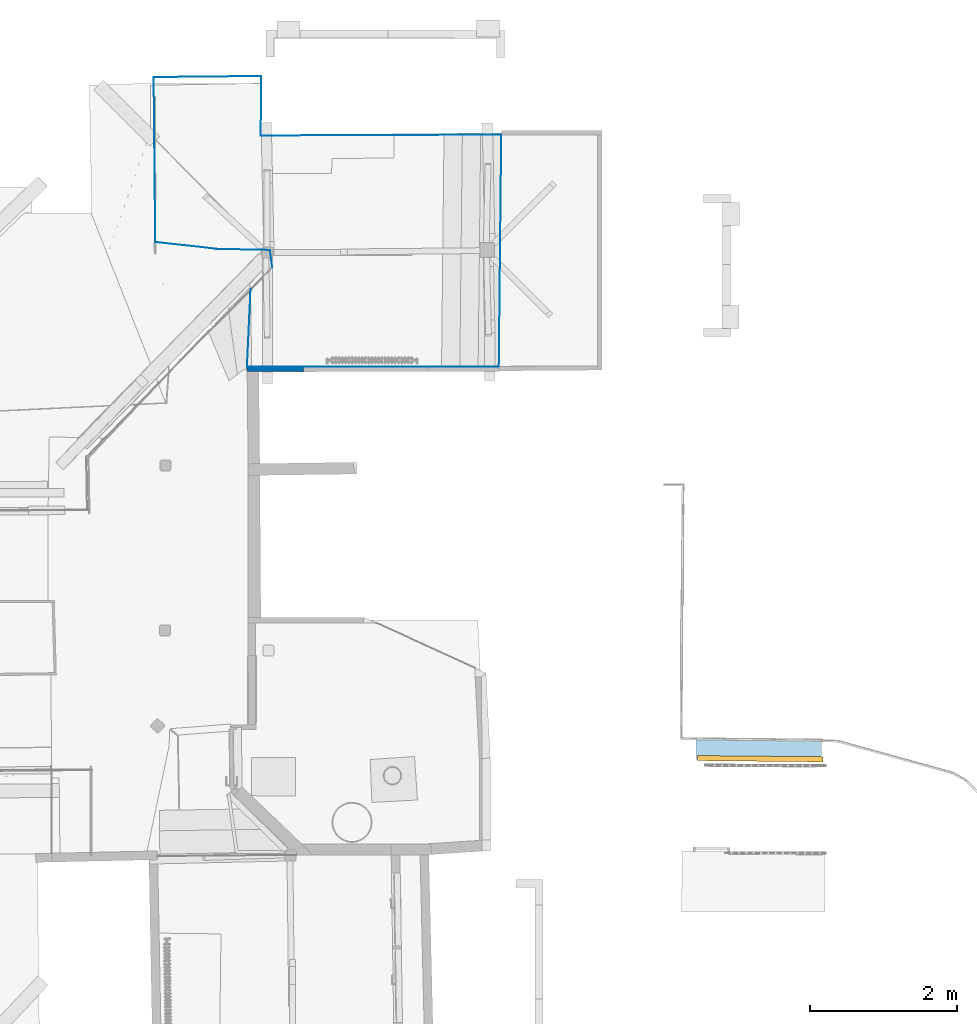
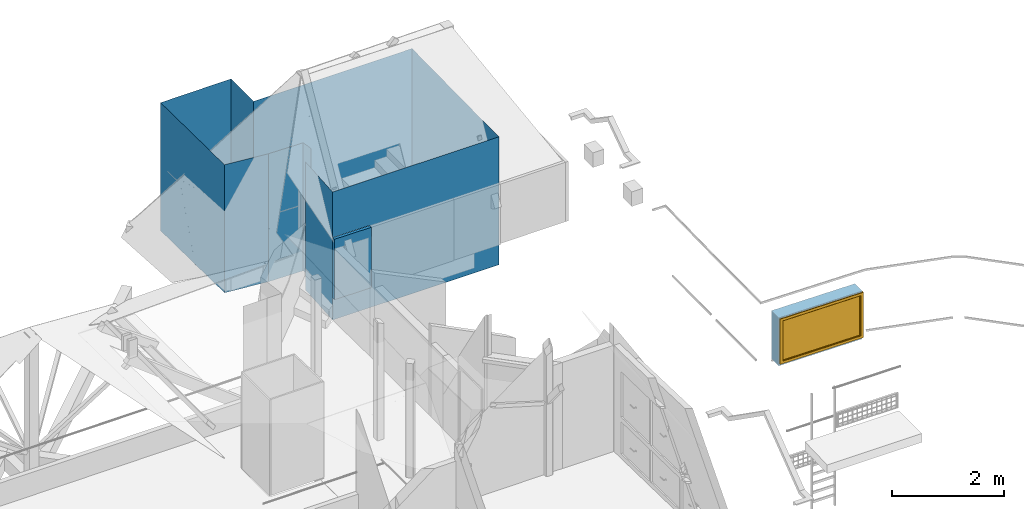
# One storey, part 23 of 39: 11 walls, 1 window, 1 opening, plus 1 element that does not belong to this part.
"""IFC2X3 building model written with IfcOpenShell, lengths in centimetres."""

import ifcopenshell
import ifcopenshell.guid

model = None  # the IFC model being written
_history = None  # IfcOwnerHistory: only IFC2X3 demands one
_inside = {}  # id of a spatial element -> (the spatial element, [elements in it])
_under = {}  # id of a project, library or spatial element -> (it, [spatial elements below it])
_declared = {}  # id of a project -> (the project, [libraries it declares])
_typed = {}  # id of a type object -> (the type object, [elements of that type])
_made_of = {}  # id of a material, layer set ... -> (it, [elements and type objects made of it])


def new_model(schema):
    """Start an empty IFC model of exactly this schema.

    Asked for "IFC4X3", IfcOpenShell would pick the latest addendum, in which some entities
    have other attributes; the version numbers below select the first issue.
    IFC2X3 requires an IfcOwnerHistory on every rooted entity: one is made here for all.
    """
    global model, _history
    if schema == "IFC4X3":
        model = ifcopenshell.file(schema_version=(4, 3, 0, 0))
    else:
        model = ifcopenshell.file(schema=schema)
    _inside.clear()
    _under.clear()
    _declared.clear()
    _typed.clear()
    _made_of.clear()
    _history = None
    if model.schema == "IFC2X3":
        org = make("IfcOrganization", Name="unknown")
        user = make(
            "IfcPersonAndOrganization",
            ThePerson=make("IfcPerson", FamilyName="unknown"),
            TheOrganization=org,
        )
        app = make(
            "IfcApplication",
            ApplicationDeveloper=org,
            Version="unknown",
            ApplicationFullName="unknown",
            ApplicationIdentifier="unknown",
        )
        _history = make(
            "IfcOwnerHistory",
            OwningUser=user,
            OwningApplication=app,
            ChangeAction="ADDED",
            CreationDate=0,
        )
    return model


def make(cls, **values):
    """One entity of the class cls with the attributes given. An attribute that is None is left unset."""
    return model.create_entity(
        cls, **{name: value for name, value in values.items() if value is not None}
    )


def entity(cls, *values):
    """Any entity or typed value of the class cls, its attributes in the order of the schema. None: left unset."""
    e = model.create_entity(cls)
    for i, value in enumerate(values):
        if value is not None:
            e[i] = value
    return e


def rooted(cls, **values):
    """An entity with a GlobalId (a new one), such as an element, a storey or a relation."""
    return make(cls, GlobalId=ifcopenshell.guid.new(), OwnerHistory=_history, **values)


def si_unit(unit_type, name, prefix=None):
    """IfcSIUnit, for example si_unit("LENGTHUNIT", "METRE", prefix="MILLI")."""
    return make("IfcSIUnit", UnitType=unit_type, Prefix=prefix, Name=name)


def converted_unit(unit_type, name, factor, base, dimensions=None, offset=None):
    """IfcConversionBasedUnit, such as the inch: factor (a typed value) times the base unit."""
    return make(
        "IfcConversionBasedUnit"
        if offset is None
        else "IfcConversionBasedUnitWithOffset",
        ConversionOffset=offset,
        Dimensions=None
        if dimensions is None
        else entity("IfcDimensionalExponents", *dimensions),
        UnitType=unit_type,
        Name=name,
        ConversionFactor=make(
            "IfcMeasureWithUnit", ValueComponent=factor, UnitComponent=base
        ),
    )


def assignment(units):
    """IfcUnitAssignment: the units of a project."""
    return None if units is None else make("IfcUnitAssignment", Units=units)


def point(xyz):
    """IfcCartesianPoint."""
    return None if xyz is None else make("IfcCartesianPoint", Coordinates=xyz)


def direction(xyz):
    """IfcDirection."""
    return None if xyz is None else make("IfcDirection", DirectionRatios=xyz)


def frame(location, z_axis=None, x_axis=None):
    """IfcAxis2Placement3D, a coordinate frame: its origin and axes. An axis left out is left unset."""
    return make(
        "IfcAxis2Placement3D",
        Location=point(location),
        Axis=direction(z_axis),
        RefDirection=direction(x_axis),
    )


def frame_2d(location, x_axis=None):
    """IfcAxis2Placement2D, a coordinate frame in the plane: its origin and x axis."""
    return make(
        "IfcAxis2Placement2D", Location=point(location), RefDirection=direction(x_axis)
    )


def origin():
    """The frame at (0, 0, 0) with its axes left unset."""
    return frame((0.0, 0.0, 0.0))


def origin_with_axes():
    """The frame at (0, 0, 0) with the z axis (0, 0, 1) and the x axis (1, 0, 0) written out."""
    return frame((0.0, 0.0, 0.0), z_axis=(0.0, 0.0, 1.0), x_axis=(1.0, 0.0, 0.0))


def origin_2d_with_axis():
    """The frame at (0, 0) in the plane with the x axis (1, 0) written out."""
    return frame_2d((0.0, 0.0), x_axis=(1.0, 0.0))


def place(relative_to, where):
    """IfcLocalPlacement: puts the frame where relative to a parent placement (None: the world)."""
    return make(
        "IfcLocalPlacement", PlacementRelTo=relative_to, RelativePlacement=where
    )


def context(
    kind, dimensions, precision=None, world=None, true_north=None, identifier=None
):
    """IfcGeometricRepresentationContext, for example the 3D "Model" context."""
    return make(
        "IfcGeometricRepresentationContext",
        ContextIdentifier=identifier,
        ContextType=kind,
        CoordinateSpaceDimension=dimensions,
        Precision=precision,
        WorldCoordinateSystem=world,
        TrueNorth=true_north,
    )


def subcontext(parent, identifier, kind, view, scale=None):
    """IfcGeometricRepresentationSubContext, for example "Body" below "Model"."""
    return make(
        "IfcGeometricRepresentationSubContext",
        ContextIdentifier=identifier,
        ContextType=kind,
        ParentContext=parent,
        TargetScale=scale,
        TargetView=view,
    )


def project(units=None, contexts=None):
    """IfcProject with its units and contexts."""
    return rooted(
        "IfcProject",
        Name="project",
        RepresentationContexts=contexts,
        UnitsInContext=assignment(units),
    )


def spatial(cls, under=None, at=None, **own):
    """A site, building, storey or space (cls), placed at a placement, below another one or the project."""
    s = rooted(cls, ObjectPlacement=at, **own)
    if under is not None:
        _under.setdefault(under.id(), (under, []))[1].append(s)
    return s


def profile(cls, at=None, kind="AREA", **sizes):
    """A parametric profile (cls). Its sizes go by their IFC names, for example OverallWidth=200.0."""
    return make(cls, ProfileType=kind, Position=at, **sizes)


def rectangle(**sizes):
    """IfcRectangleProfileDef."""
    return profile("IfcRectangleProfileDef", **sizes)


def extrude(swept, where, along, depth):
    """IfcExtrudedAreaSolid: the profile swept, set in the frame where, extruded along a direction by depth."""
    return make(
        "IfcExtrudedAreaSolid",
        SweptArea=swept,
        Position=where,
        ExtrudedDirection=direction(along),
        Depth=depth,
    )


def faces_of(points, faces, orient=None, outer=None):
    """IfcFace entities. A face is a list of loops; a loop is a list of indices into points, from 0.

    orient and outer hold one flag for each loop. By default every Orientation is true, the
    first loop of a face is its IfcFaceOuterBound and the others are IfcFaceBound.
    """
    made = []
    for i, loops in enumerate(faces):
        bounds = []
        for j, loop in enumerate(loops):
            is_outer = j == 0 if outer is None else outer[i][j]
            bounds.append(
                make(
                    "IfcFaceOuterBound" if is_outer else "IfcFaceBound",
                    Bound=make("IfcPolyLoop", Polygon=[points[k] for k in loop]),
                    Orientation=True if orient is None else orient[i][j],
                )
            )
        made.append(make("IfcFace", Bounds=bounds))
    return made


def faceted_brep(points, faces, orient=None, outer=None, voids=None):
    """IfcFacetedBrep: a solid bounded by flat faces; with voids (closed shells), ...WithVoids."""
    shared = [point(p) for p in points]
    hull = make("IfcClosedShell", CfsFaces=faces_of(shared, faces, orient, outer))
    if voids is None:
        return make("IfcFacetedBrep", Outer=hull)
    return make(
        "IfcFacetedBrepWithVoids",
        Outer=hull,
        Voids=[
            make(cls, CfsFaces=faces_of(shared, fs, o, b)) for cls, fs, o, b in voids
        ],
    )


def shape(context_of_items, identifier, shape_type, items):
    """IfcShapeRepresentation: the items that make up one representation, for example the "Body"."""
    return make(
        "IfcShapeRepresentation",
        ContextOfItems=context_of_items,
        RepresentationIdentifier=identifier,
        RepresentationType=shape_type,
        Items=items,
    )


def source(mapping_origin, context_of_items, identifier, shape_type, items):
    """IfcRepresentationMap: a shape defined once, which mapped items show again and again."""
    return make(
        "IfcRepresentationMap",
        MappingOrigin=mapping_origin,
        MappedRepresentation=shape(context_of_items, identifier, shape_type, items),
    )


def transform(
    local_origin,
    x_axis=None,
    y_axis=None,
    z_axis=None,
    scale=None,
    scale2=None,
    scale3=None,
    uniform=True,
):
    """IfcCartesianTransformationOperator3D, or its non-uniform kind. x_axis, y_axis, z_axis: its Axis1, 2, 3."""
    if uniform:
        return make(
            "IfcCartesianTransformationOperator3D",
            Axis1=direction(x_axis),
            Axis2=direction(y_axis),
            LocalOrigin=point(local_origin),
            Scale=scale,
            Axis3=direction(z_axis),
        )
    return make(
        "IfcCartesianTransformationOperator3DnonUniform",
        Axis1=direction(x_axis),
        Axis2=direction(y_axis),
        LocalOrigin=point(local_origin),
        Scale=scale,
        Axis3=direction(z_axis),
        Scale2=scale2,
        Scale3=scale3,
    )


def mapped(mapping_source, mapping_target):
    """IfcMappedItem: shows the shape of a source again, moved by a transform."""
    return make(
        "IfcMappedItem", MappingSource=mapping_source, MappingTarget=mapping_target
    )


def material(Name=None, Category=None):
    """IfcMaterial."""
    return make("IfcMaterial", Name=Name, Category=Category)


def material_list(materials):
    """IfcMaterialList."""
    return make("IfcMaterialList", Materials=materials)


def layer(
    of_material, thickness, ventilated=None, Name=None, Category=None, Priority=None
):
    """IfcMaterialLayer: one layer of a wall or slab, of a material (None: an air gap)."""
    return make(
        "IfcMaterialLayer",
        Material=of_material,
        LayerThickness=thickness,
        IsVentilated=ventilated,
        Name=Name,
        Category=Category,
        Priority=Priority,
    )


def layer_set(layers, Name=None):
    """IfcMaterialLayerSet."""
    return make("IfcMaterialLayerSet", MaterialLayers=layers, LayerSetName=Name)


def layer_usage(for_layer_set, set_direction, sense, offset, extent=None):
    """IfcMaterialLayerSetUsage: how a layer set lies in its element."""
    return make(
        "IfcMaterialLayerSetUsage",
        ForLayerSet=for_layer_set,
        LayerSetDirection=set_direction,
        DirectionSense=sense,
        OffsetFromReferenceLine=offset,
        ReferenceExtent=extent,
    )


def made_of(thing, what):
    """Note that an element or type object is made of a material, layer set ...; save() writes the relation."""
    if what is not None:
        _made_of.setdefault(what.id(), (what, []))[1].append(thing)
    return thing


def type_object(cls, material=None, **own):
    """A type object (cls), such as IfcWallType, which elements share."""
    return made_of(rooted(cls, **own), material)


def element(
    cls,
    number,
    at=None,
    inside=None,
    cuts=None,
    type_object=None,
    material=None,
    context=None,
    identifier="Body",
    shape_type=None,
    held_by="IfcProductDefinitionShape",
    body=None,
    shapes=None,
    **own,
):
    """One element of the class cls, such as IfcWall. Its Tag is "e" and its number.

    at: its placement. inside: the storey or other place that contains it. cuts: it is an
    opening in that element (IfcRelVoidsElement). A single representation is given by context,
    identifier, shape_type and body (its items); several are given by shapes. held_by: the class
    of the entity that holds the representations. save() writes the other relations.
    """
    e = rooted(cls, Tag="e%d" % number, ObjectPlacement=at, **own)
    if body is not None:
        shapes = [shape(context, identifier, shape_type, body)]
    if shapes is not None:
        e.Representation = make(held_by, Representations=shapes)
    if inside is not None:
        _inside.setdefault(inside.id(), (inside, []))[1].append(e)
    if cuts is not None:
        rooted(
            "IfcRelVoidsElement", RelatingBuildingElement=cuts, RelatedOpeningElement=e
        )
    if type_object is not None:
        _typed.setdefault(type_object.id(), (type_object, []))[1].append(e)
    return made_of(e, material)


def fill(opening, filler):
    """IfcRelFillsElement: the door or window that sits in an opening."""
    return rooted(
        "IfcRelFillsElement",
        RelatingOpeningElement=opening,
        RelatedBuildingElement=filler,
    )


def aggregate(whole, parts):
    """IfcRelAggregates: a whole, such as a stair, and the parts it consists of."""
    return rooted("IfcRelAggregates", RelatingObject=whole, RelatedObjects=parts)


def save(model, path):
    """Write the relations noted so far, then the file.

    IfcRelAggregates (storeys below a building ...), IfcRelContainedInSpatialStructure (elements
    in a storey), IfcRelDefinesByType, IfcRelAssociatesMaterial and IfcRelDeclares: one each for
    every whole, place, type object, material and project.
    """
    for whole, parts in _under.values():
        aggregate(whole, parts)
    for where, things in _inside.values():
        rooted(
            "IfcRelContainedInSpatialStructure",
            RelatedElements=things,
            RelatingStructure=where,
        )
    for kind, things in _typed.values():
        rooted("IfcRelDefinesByType", RelatedObjects=things, RelatingType=kind)
    for what, things in _made_of.values():
        rooted("IfcRelAssociatesMaterial", RelatedObjects=things, RelatingMaterial=what)
    for by, libraries in _declared.values():
        rooted("IfcRelDeclares", RelatingContext=by, RelatedDefinitions=libraries)
    model.write(path)


model = new_model("IFC2X3")

# Units and contexts
model_context = context("Model", 3, precision=0.0001, world=origin(), true_north=direction((0.225632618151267, 0.974212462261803, 0.0)))
body_context = subcontext(model_context, "Body", "Model", "MODEL_VIEW")
footprint_context = subcontext(model_context, "FootPrint", "Model", "MODEL_VIEW")
profile_context = subcontext(model_context, "Profile", "Model", "MODEL_VIEW")
ifc_project = project(units=[si_unit("LENGTHUNIT", "METRE", prefix="CENTI"), si_unit("AREAUNIT", "SQUARE_METRE", prefix="CENTI"), si_unit("VOLUMEUNIT", "CUBIC_METRE", prefix="CENTI"), converted_unit("PLANEANGLEUNIT", "DEGREE", entity("IfcRatioMeasure", 0.0174532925), si_unit("PLANEANGLEUNIT", "RADIAN"), dimensions=[0, 0, 0, 0, 0, 0, 0])], contexts=[model_context])

# Site, building, storey
site_placement = place(None, origin_with_axes())
site = spatial("IfcSite", under=ifc_project, at=site_placement, Name="Default Site", CompositionType="ELEMENT")
building_placement = place(site_placement, origin_with_axes())
building = spatial("IfcBuilding", under=site, at=building_placement, Name="Default Building", CompositionType="ELEMENT")
storey_placement = place(building_placement, frame((0.0, 0.0, 1088.91037418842), z_axis=(0.0, 0.0, 1.0), x_axis=(1.0, 0.0, 0.0)))
storey = spatial("IfcBuildingStorey", under=building, at=storey_placement, Name="Mezzanine", CompositionType="ELEMENT", Elevation=1088.91037418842)

# Walls
ifc_material_1 = material(Name="<aucun>")
ifc_layer_1 = layer(ifc_material_1, 0.0101999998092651)
ifc_layer_set_1 = layer_set([ifc_layer_1], Name="default")
ifc_layer_usage_1 = layer_usage(ifc_layer_set_1, "AXIS2", "POSITIVE", -0.0051)
wall_type_1 = type_object("IfcWallType", Name="default 0.101999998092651", PredefinedType="NOTDEFINED", material=ifc_layer_set_1)
wall_1_placement = place(storey_placement, frame((540.126410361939, 447.063010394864, 0.0), z_axis=(0.0, 0.0, 1.0), x_axis=(-0.133735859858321, 0.991017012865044, 0.0)))
element("IfcWall", 1, at=wall_1_placement, inside=storey, type_object=wall_type_1, material=ifc_layer_usage_1, Name="Enveloppe fantôme 2042046", context=body_context, shape_type="Brep", body=[
    faceted_brep([(25.919822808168, -3.11881231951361e-06, 1.47581101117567e-05), (2.47128766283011, -3.33709524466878e-06, 1.47581101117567e-05), (2.47128766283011, -3.33709524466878e-06, 279.702392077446), (25.919822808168, -3.11881231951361e-06, 279.702392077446), (2.4712876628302, -1.27663188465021e-05, 1.47581101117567e-05), (25.9198228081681, -1.2548035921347e-05, 1.47581101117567e-05), (25.9198228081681, -1.2548035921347e-05, 279.702392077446), (2.4712876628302, -1.27663188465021e-05, 279.702392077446)], [[[0, 1, 2, 3]], [[4, 5, 6, 7]]]),
])
ifc_layer_usage_2 = layer_usage(ifc_layer_set_1, "AXIS2", "POSITIVE", -0.0051)
wall_2_placement = place(storey_placement, frame((524.206262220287, 628.930022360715, 0.0), z_axis=(0.0, 0.0, 1.0), x_axis=(0.999993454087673, 0.00361825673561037, 0.0)))
element("IfcWall", 2, at=wall_2_placement, inside=storey, type_object=wall_type_1, material=ifc_layer_usage_2, Name="Enveloppe fantôme 2044191", context=body_context, shape_type="Brep", body=[
    faceted_brep([(328.225848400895, -2.06309287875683e-05, 1.4758109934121e-05), (-5.27487040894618e-06, -2.06169230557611e-05, 1.4758109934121e-05), (-5.27487040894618e-06, -2.06169230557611e-05, 279.702392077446), (328.225848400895, -2.06309287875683e-05, 279.702392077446), (-5.27487040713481e-06, 2.18327080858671e-05, 1.4758109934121e-05), (328.225848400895, 2.18187023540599e-05, 1.4758109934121e-05), (328.225848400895, 2.18187023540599e-05, 279.702392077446), (-5.27487040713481e-06, 2.18327080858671e-05, 279.702392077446)], [[[0, 1, 2, 3]], [[4, 5, 6, 7]]]),
])
ifc_layer_usage_3 = layer_usage(ifc_layer_set_1, "AXIS2", "POSITIVE", -0.0051)
wall_3_placement = place(storey_placement, frame((524.206262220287, 628.930022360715, 0.0), z_axis=(0.0, 0.0, 1.0), x_axis=(0.00598224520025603, 0.999982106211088, 0.0)))
element("IfcWall", 3, at=wall_3_placement, inside=storey, type_object=wall_type_1, material=ifc_layer_usage_3, Name="Enveloppe fantôme 2043862", context=body_context, shape_type="Brep", body=[
    faceted_brep([(81.1419919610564, -3.58133442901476e-06, 1.47581101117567e-05), (2.17810611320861e-05, -3.5777495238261e-06, 1.47581101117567e-05), (2.17810611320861e-05, -3.5777495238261e-06, 279.702392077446), (81.1419919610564, -3.58133442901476e-06, 279.702392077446), (2.17810611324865e-05, 5.48423004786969e-06, 1.47581101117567e-05), (81.1419919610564, 5.48064514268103e-06, 1.47581101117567e-05), (81.1419919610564, 5.48064514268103e-06, 279.702392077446), (2.17810611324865e-05, 5.48423004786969e-06, 279.702392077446)], [[[0, 1, 2, 3]], [[4, 5, 6, 7]]]),
])
ifc_layer_usage_4 = layer_usage(ifc_layer_set_1, "AXIS2", "POSITIVE", -0.0051)
wall_4_placement = place(storey_placement, frame((505.378204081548, 313.260840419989, 0.0), z_axis=(0.0, 0.0, 1.0), x_axis=(0.999998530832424, 0.00171415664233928, 0.0)))
element("IfcWall", 4, at=wall_4_placement, inside=storey, type_object=wall_type_1, material=ifc_layer_usage_4, Name="Enveloppe fantôme 2045186", context=body_context, shape_type="Brep", body=[
    faceted_brep([(343.6457382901, -8.9187697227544e-07, 1.47581101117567e-05), (76.630174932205, -1.03785121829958e-05, 1.47581101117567e-05), (15.9843625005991, -4.45678209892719e-06, 1.47581101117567e-05), (-0.0111157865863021, -3.83802443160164e-06, 1.47581101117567e-05), (343.699907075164, 1.6217756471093e-06, 1.47581101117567e-05), (343.699907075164, 1.6217756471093e-06, 47.9999689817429), (343.6457382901, -8.9187697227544e-07, 47.9999689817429), (76.630174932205, -1.03785121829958e-05, 47.9999689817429), (15.9843625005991, -4.45678209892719e-06, 47.9999689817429), (-0.0111157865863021, -3.83802443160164e-06, 47.9999689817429), (15.9843625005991, 1.62672306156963e-06, 1.47581101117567e-05), (-0.011115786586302, 1.6269645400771e-06, 1.47581101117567e-05), (-0.011115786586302, 1.6269645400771e-06, 47.9999689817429), (15.9843625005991, 1.62672306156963e-06, 47.9999689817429), (76.630174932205, 1.62580751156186e-06, 47.9999689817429), (343.6457382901, 1.62177646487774e-06, 47.9999689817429), (15.9843625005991, -3.83826591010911e-06, 1.47581101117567e-05), (15.9843625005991, -3.83826591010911e-06, 47.9999689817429), (343.699907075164, -4.46172951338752e-06, 1.47581101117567e-05), (343.699907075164, -4.46172951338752e-06, 47.9999689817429), (343.6457382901, -4.46172869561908e-06, 47.9999689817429), (76.630174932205, -4.45769764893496e-06, 47.9999689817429), (76.630174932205, -8.87845925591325e-07, 47.9999689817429), (76.630174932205, -8.87845925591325e-07, 180.004706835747), (76.630174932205, -8.87845925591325e-07, 182.702460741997), (343.6457382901, -8.9187697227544e-07, 182.702460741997), (343.6457382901, -8.9187697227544e-07, 180.004706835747), (343.6457382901, -8.9187697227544e-07, 50.0000147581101), (343.6457382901, -1.03825432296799e-05, 47.9999689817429), (343.6457382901, -1.03825432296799e-05, 50.0000147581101), (343.6457382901, -1.03825432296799e-05, 180.004706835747), (343.6457382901, -1.03825432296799e-05, 182.702460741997), (76.630174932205, -1.03785121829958e-05, 182.702460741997), (76.630174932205, -1.03785121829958e-05, 180.004706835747), (343.6457382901, 1.62177646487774e-06, 50.0000147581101), (343.699907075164, 1.6217756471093e-06, 50.0000147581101), (343.699907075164, -8.91877790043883e-07, 47.9999689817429), (343.699907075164, -8.91877790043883e-07, 50.0000147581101), (-0.0111157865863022, -1.03773551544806e-05, 180.004706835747), (-0.0111157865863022, -1.03773551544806e-05, 182.702460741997), (-0.0111157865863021, -3.83802443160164e-06, 180.004706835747), (76.630174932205, -3.83918146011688e-06, 180.004706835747), (76.630174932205, -3.83918146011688e-06, 182.702460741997), (-0.0111157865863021, -3.83802443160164e-06, 182.702460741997), (343.699907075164, 1.6217756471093e-06, 180.004706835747), (343.6457382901, 1.62177646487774e-06, 180.004706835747), (343.6457382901, 1.62177646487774e-06, 182.702460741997), (343.699907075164, 1.6217756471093e-06, 182.702460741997), (343.699907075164, -8.91877790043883e-07, 180.004706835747), (343.699907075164, -8.91877790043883e-07, 182.702460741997), (76.630174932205, 1.62580751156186e-06, 182.702460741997), (-0.011115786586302, 1.6269645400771e-06, 182.702460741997), (-0.011115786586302, 1.6269645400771e-06, 279.702392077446), (343.699907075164, 1.6217756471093e-06, 279.702392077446), (343.6457382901, -3.843212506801e-06, 182.702460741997), (343.699907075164, -3.84321332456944e-06, 182.702460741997), (343.699907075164, -3.84321332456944e-06, 279.702392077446), (-0.0111157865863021, -3.83802443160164e-06, 279.702392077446)], [[[0, 1, 2, 3, 2, 1, 0, 4]], [[5, 6, 7, 8, 9, 8, 7, 6]], [[4, 10, 11, 12, 13, 14, 15, 5]], [[3, 16, 17, 9]], [[2, 18, 19, 20, 21, 8]], [[6, 22, 23, 24, 25, 26, 27]], [[7, 28, 29, 30, 31, 32, 33]], [[5, 15, 34, 35]], [[6, 36, 37, 27]], [[33, 38, 39, 32]], [[40, 41, 42, 43]], [[44, 45, 46, 47]], [[26, 48, 49, 25]], [[47, 46, 50, 51, 52, 53]], [[43, 42, 54, 55, 56, 57]]]),
])
ifc_layer_usage_5 = layer_usage(ifc_layer_set_1, "AXIS2", "POSITIVE", -0.0051)
wall_5_placement = place(storey_placement, frame((849.072531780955, 313.370542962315, 0.0), z_axis=(0.0, 0.0, 1.0), x_axis=(0.0105991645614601, 0.999943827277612, 0.0)))
element("IfcWall", 5, at=wall_5_placement, inside=storey, type_object=wall_type_1, material=ifc_layer_usage_5, Name="Enveloppe fantôme 2044857", context=body_context, shape_type="Brep", body=[
    faceted_brep([(316.764857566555, 1.2476088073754e-05, 1.47581101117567e-05), (0.479481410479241, 1.23066331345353e-05, 1.47581101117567e-05), (0.479481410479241, 1.23066331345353e-05, 47.9999689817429), (316.314841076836, 1.24758469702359e-05, 47.9999689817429), (316.764857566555, 1.2476088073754e-05, 47.9999689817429), (0.479481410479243, 7.68258843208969e-06, 1.47581101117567e-05), (316.764857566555, 7.85204337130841e-06, 1.47581101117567e-05), (316.764857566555, 7.85204337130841e-06, 47.9999689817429), (316.314841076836, 7.85180226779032e-06, 47.9999689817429), (0.479481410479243, 7.68258843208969e-06, 47.9999689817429), (316.314841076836, 1.10487601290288e-05, 47.9999689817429), (0.479481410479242, 1.08795462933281e-05, 47.9999689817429), (0.479481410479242, 1.08795462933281e-05, 182.702460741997), (316.314841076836, 1.10487601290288e-05, 182.702460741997), (316.314841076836, 1.10487601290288e-05, 180.004706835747), (316.314841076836, 1.10487601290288e-05, 50.0000147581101), (316.314841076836, 7.85180226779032e-06, 50.0000147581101), (316.314841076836, 7.85180226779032e-06, 180.004706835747), (316.314841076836, 7.85180226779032e-06, 182.702460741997), (0.479481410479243, 7.68258843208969e-06, 182.702460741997), (316.314841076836, 1.24758469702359e-05, 50.0000147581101), (316.764857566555, 1.2476088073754e-05, 50.0000147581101), (316.764857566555, 1.10490012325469e-05, 47.9999689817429), (316.764857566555, 1.10490012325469e-05, 50.0000147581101), (316.764857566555, 1.2476088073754e-05, 180.004706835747), (316.314841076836, 1.24758469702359e-05, 180.004706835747), (316.314841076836, 1.24758469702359e-05, 182.702460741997), (316.764857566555, 1.2476088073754e-05, 182.702460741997), (316.764857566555, 1.10490012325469e-05, 180.004706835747), (316.764857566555, 1.10490012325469e-05, 182.702460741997), (0.479481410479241, 1.23066331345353e-05, 182.702460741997), (0.479481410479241, 1.23066331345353e-05, 279.702392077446), (316.764857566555, 1.2476088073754e-05, 279.702392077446), (316.764857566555, 7.85204337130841e-06, 182.702460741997), (316.764857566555, 7.85204337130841e-06, 279.702392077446), (0.479481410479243, 7.68258843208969e-06, 279.702392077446)], [[[0, 1, 2, 3, 4]], [[5, 6, 7, 8, 9]], [[10, 11, 12, 13, 14, 15]], [[9, 8, 16, 17, 18, 19]], [[4, 3, 20, 21]], [[10, 22, 23, 15]], [[24, 25, 26, 27]], [[14, 28, 29, 13]], [[27, 26, 30, 31, 32]], [[19, 18, 33, 34, 35]]]),
])
ifc_layer_usage_6 = layer_usage(ifc_layer_set_1, "AXIS2", "POSITIVE", -0.0051)
wall_6_placement = place(storey_placement, frame((471.306600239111, 473.497461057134, 0.0), z_axis=(0.0, 0.0, 1.0), x_axis=(-0.993912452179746, 0.110172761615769, 0.0)))
element("IfcWall", 6, at=wall_6_placement, inside=storey, type_object=wall_type_1, material=ifc_layer_usage_6, Name="Enveloppe fantôme 2043132", context=body_context, shape_type="Brep", body=[
    faceted_brep([(91.614303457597, 2.07052718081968e-05, 1.47581101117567e-05), (5.83211390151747, 2.08041197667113e-05, 1.47581101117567e-05), (5.83211390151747, 2.08041197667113e-05, 279.702392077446), (91.614303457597, 2.07052718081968e-05, 279.702392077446), (5.83211390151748, 2.48012357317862e-05, 1.47581101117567e-05), (91.614303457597, 2.47023877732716e-05, 1.47581101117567e-05), (91.614303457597, 2.47023877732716e-05, 279.702392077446), (5.83211390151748, 2.48012357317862e-05, 279.702392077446)], [[[0, 1, 2, 3]], [[4, 5, 6, 7]]]),
])
ifc_layer_usage_7 = layer_usage(ifc_layer_set_1, "AXIS2", "POSITIVE", -0.0051)
wall_7_placement = place(storey_placement, frame((537.5806045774, 472.732014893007, 0.0), z_axis=(0.0, 0.0, 1.0), x_axis=(-0.999809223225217, 0.0195324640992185, 0.0)))
element("IfcWall", 7, at=wall_7_placement, inside=storey, type_object=wall_type_1, material=ifc_layer_usage_7, Name="Enveloppe fantôme 2042855", context=body_context, shape_type="Brep", body=[
    faceted_brep([(72.0843692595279, 2.37507494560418e-05, 1.4758109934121e-05), (0.920776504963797, 2.37999194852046e-05, 1.4758109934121e-05), (0.920776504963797, 2.37999194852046e-05, 279.702392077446), (72.0843692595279, 2.37507494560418e-05, 279.702392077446), (0.920776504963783, 3.74244448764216e-06, 1.4758109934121e-05), (72.0843692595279, 3.69327445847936e-06, 1.4758109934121e-05), (72.0843692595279, 3.69327445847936e-06, 279.702392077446), (0.920776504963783, 3.74244448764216e-06, 279.702392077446)], [[[0, 1, 2, 3]], [[4, 5, 6, 7]]]),
])
ifc_layer_usage_8 = layer_usage(ifc_layer_set_1, "AXIS2", "POSITIVE", -0.0051)
wall_8_placement = place(storey_placement, frame((373.577284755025, 708.596643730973, 0.0), z_axis=(0.0, 0.0, 1.0), x_axis=(0.99995243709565, 0.0097531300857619, 0.0)))
element("IfcWall", 8, at=wall_8_placement, inside=storey, type_object=wall_type_1, material=ifc_layer_usage_8, Name="Enveloppe fantôme 2043686", context=body_context, shape_type="Brep", body=[
    faceted_brep([(151.121580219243, 1.02015389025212e-05, 1.4758109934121e-05), (4.47788104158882, 1.01566381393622e-05, 1.4758109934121e-05), (4.47788104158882, 1.01566381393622e-05, 279.702392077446), (151.121580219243, 1.02015389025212e-05, 279.702392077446), (4.47788104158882, 1.99040228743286e-05, 1.4758109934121e-05), (151.121580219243, 1.99489236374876e-05, 1.4758109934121e-05), (151.121580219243, 1.99489236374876e-05, 279.702392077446), (4.47788104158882, 1.99040228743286e-05, 279.702392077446)], [[[0, 1, 2, 3]], [[4, 5, 6, 7]]]),
])
ifc_layer_usage_9 = layer_usage(ifc_layer_set_1, "AXIS2", "POSITIVE", -0.0051)
wall_9_placement = place(storey_placement, frame((380.275482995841, 480.977322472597, 0.0), z_axis=(0.0, 0.0, 1.0), x_axis=(-0.00975313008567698, 0.999952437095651, 0.0)))
element("IfcWall", 9, at=wall_9_placement, inside=storey, type_object=wall_type_1, material=ifc_layer_usage_9, Name="Enveloppe fantôme 2043409", context=body_context, shape_type="Brep", body=[
    faceted_brep([(227.673843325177, -2.2367815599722e-06, 1.47581102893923e-05), (2.61364304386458, -2.3057117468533e-06, 1.47581102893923e-05), (2.61364304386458, -2.3057117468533e-06, 279.702392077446), (227.673843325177, -2.2367815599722e-06, 279.702392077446), (2.61364304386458, -9.15887299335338e-06, 1.47581102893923e-05), (227.673843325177, -9.08994280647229e-06, 1.47581102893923e-05), (227.673843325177, -9.08994280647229e-06, 279.702392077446), (2.61364304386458, -9.15887299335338e-06, 279.702392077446)], [[[0, 1, 2, 3]], [[4, 5, 6, 7]]]),
])
ifc_layer_usage_10 = layer_usage(ifc_layer_set_1, "AXIS2", "POSITIVE", -0.0051)
wall_10_placement = place(storey_placement, frame((505.367109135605, 313.260923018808, 0.0), z_axis=(0.0, 0.0, 1.0), x_axis=(0.045730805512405, 0.998953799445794, 0.0)))
element("IfcWall", 10, at=wall_10_placement, inside=storey, type_object=wall_type_1, material=ifc_layer_usage_10, Name="Enveloppe fantôme 227036", context=body_context, shape_type="Brep", body=[
    faceted_brep([(106.192360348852, -1.73764330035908e-05, 1.4758109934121e-05), (-0.00010633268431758, -1.73268936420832e-05, 1.4758109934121e-05), (-0.00010633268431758, -1.73268936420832e-05, 279.702392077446), (106.192360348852, -1.73764330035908e-05, 279.702392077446), (-0.000106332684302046, 1.59717639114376e-05, 1.4758109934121e-05), (106.192360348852, 1.592222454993e-05, 1.4758109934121e-05), (106.192360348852, 1.592222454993e-05, 279.702392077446), (-0.000106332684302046, 1.59717639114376e-05, 279.702392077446)], [[[0, 1, 2, 3]], [[4, 5, 6, 7]]]),
])
ifc_layer_2 = layer(ifc_material_1, 6.0)
ifc_layer_set_2 = layer_set([ifc_layer_2], Name="default")
ifc_layer_usage_11 = layer_usage(ifc_layer_set_2, "AXIS2", "POSITIVE", -3.0)
wall_type_2 = type_object("IfcWallType", Name="default 60", PredefinedType="NOTDEFINED", material=ifc_layer_set_2)
wall_11_placement = place(storey_placement, frame((582.086801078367, 309.689682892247, 48.0), z_axis=(0.0, 0.0, 1.0), x_axis=(-0.999972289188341, 0.00744451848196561, 0.0)))
element("IfcWall", 11, at=wall_11_placement, inside=storey, type_object=wall_type_2, material=ifc_layer_usage_11, Name="Enveloppe 192724", context=body_context, shape_type="Brep", body=[
    faceted_brep([(-1.80485088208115e-05, 3.00000282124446, 132.004706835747), (76.7441377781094, 3.00000280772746, 132.004706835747), (76.7441377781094, 3.00000280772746, -3.10182567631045e-05), (-1.80485088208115e-05, 3.00000282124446, -3.10182567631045e-05), (1.70561270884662e-05, -2.99999056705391, -3.10182567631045e-05), (76.7441728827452, -2.99999058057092, -3.10182567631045e-05), (76.7441728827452, -2.99999058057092, 132.004706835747), (1.70561270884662e-05, -2.99999056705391, 132.004706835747), (-1.80495656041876e-05, -2.99999056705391, -3.10182567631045e-05), (-1.80495656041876e-05, -2.99999056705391, 132.004706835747), (76.7441377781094, 3.00000366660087, 132.004706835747), (76.7441377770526, -2.99998972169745, 132.004706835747), (76.7441377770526, -2.99998972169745, -3.10182567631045e-05), (76.7441377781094, 3.00000366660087, -3.10182567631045e-05), (76.7441728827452, -2.99998972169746, 132.004706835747), (76.7441728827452, -2.99998972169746, -3.10182567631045e-05)], [[[0, 1, 2, 3]], [[4, 5, 6, 7]], [[3, 8, 9, 0]], [[10, 11, 12, 13]], [[7, 14, 10, 0]], [[3, 13, 15, 4]]]),
])

# Wall, opening, window
ifc_layer_3 = layer(ifc_material_1, 26.5)
ifc_layer_set_3 = layer_set([ifc_layer_3], Name="default")
ifc_layer_usage_12 = layer_usage(ifc_layer_set_3, "AXIS2", "POSITIVE", -13.25)
wall_type_3 = type_object("IfcWallType", Name="default 265", PredefinedType="NOTDEFINED", material=ifc_layer_set_3)
wall_12_placement = place(storey_placement, frame((1291.14784019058, -210.696308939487, 10.0000000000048), z_axis=(0.0, 0.0, 1.0), x_axis=(-0.999951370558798, 0.00986187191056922, 0.0)))
wall_12 = element("IfcWallStandardCase", 12, at=wall_12_placement, inside=storey, type_object=wall_type_3, material=ifc_layer_usage_12, Name="Enveloppe 1519655", context=body_context, shape_type="SweptSolid", body=[
    extrude(rectangle(XDim=26.4993210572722, YDim=171.382387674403, at=origin_2d_with_axis()), frame((87.5046218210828, -4.44089209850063e-13, 1.77635683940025e-13), z_axis=(0.0, 0.0, 1.0), x_axis=(-2.52684663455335e-07, -0.999999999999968, 0.0)), (0.0, 0.0, 1.0), 104.702416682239),
])
opening_placement = place(wall_12_placement, frame((3.14685166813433e-10, 2.8421709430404e-14, -4.79261075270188e-12), z_axis=(0.0, 0.0, 1.0), x_axis=(-1.0, 4.22752111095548e-15, 0.0)))
cartesian_point_1 = entity("IfcCartesianPoint", [-1.77635683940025e-13, 4.44089209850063e-14, 102.5])
cartesian_point_2 = entity("IfcCartesianPoint", [-171.195813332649, -13.2499999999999])
opening = element("IfcOpeningElement", 13, at=opening_placement, cuts=wall_12, Name="4294966500_11", ObjectType="Opening", shapes=[
    shape(body_context, "Body", "Brep", [faceted_brep([(-4.99997798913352, -33.2500047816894, 102.50001475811), (-166.195847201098, -33.2500048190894, 102.50001475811), (-166.195847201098, -33.2500048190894, 3.50003764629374), (-4.99997798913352, -33.2500047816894, 3.50003764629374), (2.54362811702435e-05, 33.2499991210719, -4.24623488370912e-05), (-171.195795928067, 33.2499990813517, -4.24623488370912e-05), (-171.195795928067, 33.2499990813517, 102.50001475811), (2.54362811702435e-05, 33.2499991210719, 102.50001475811), (-4.99997799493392, -8.25000519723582, 3.50003764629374), (-4.99997799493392, -8.25000519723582, 102.50001475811), (-4.99999997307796, -8.25000519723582, 102.50001475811), (-4.99999997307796, -8.25000519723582, 3.50003764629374), (-2.38968857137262e-05, -8.25000519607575, 3.50003764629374), (-2.38968857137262e-05, -8.25000519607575, 102.50001475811), (-2.38968857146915e-05, -8.25000103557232, 102.50001475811), (-2.38968857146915e-05, -8.25000103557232, 3.50003764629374), (-2.39065143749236e-05, 33.2499991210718, -4.24623488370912e-05), (-2.39065143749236e-05, 33.2499991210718, 102.50001475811), (-166.195847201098, -33.249994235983, 3.50003764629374), (-166.195773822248, -8.24999371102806, 3.50003764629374), (-171.195845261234, -8.24999887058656, 3.50003729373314), (-171.195795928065, 32.7336809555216, -3.17172474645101), (2.54362834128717e-05, 32.7336787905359, -3.1717243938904), (-166.195847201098, -33.249994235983, 102.50001475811), (-166.195847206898, -8.24999371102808, 102.50001475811), (-166.195847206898, -8.24999371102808, 3.50003764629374), (-166.195773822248, -8.24999371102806, 102.50001475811), (-171.195845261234, -8.24999371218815, 102.50001475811), (-171.195845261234, -8.24999371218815, 3.50003764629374), (-171.195845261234, -8.24999881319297, 3.50003764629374), (-171.195845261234, -8.24999881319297, 102.50001475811), (-171.195845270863, 33.2500013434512, 102.50001475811), (-171.195845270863, 33.2500013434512, -4.24623488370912e-05), (-171.195795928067, 33.2500013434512, 102.50001475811)], [[[0, 1, 2, 3]], [[4, 5, 6, 7]], [[0, 3, 8, 9]], [[10, 11, 12, 13]], [[14, 15, 16, 17]], [[3, 18, 19, 11]], [[15, 20, 21, 22]], [[18, 23, 24, 25]], [[19, 26, 27, 28]], [[29, 30, 31, 32]], [[10, 14, 7, 33, 30, 26, 23, 0]]])]),
    shape(profile_context, "Profile", "GeometricCurveSet", [entity("IfcGeometricCurveSet", [entity("IfcPolyline", [cartesian_point_1, entity("IfcCartesianPoint", [-1.77635683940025e-13, 4.44089209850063e-14, 0.0]), entity("IfcCartesianPoint", [-171.195813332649, 6.66133814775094e-14, 0.0]), entity("IfcCartesianPoint", [-171.195813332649, 6.66133814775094e-14, 102.5]), cartesian_point_1])])]),
    shape(footprint_context, "FootPrint", "GeometricCurveSet", [entity("IfcGeometricCurveSet", [entity("IfcPolyline", [cartesian_point_2, entity("IfcCartesianPoint", [0.0, -13.25]), entity("IfcCartesianPoint", [-1.77635683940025e-13, 13.25]), entity("IfcCartesianPoint", [-171.195813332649, 13.25]), cartesian_point_2])])]),
])
ifc_material_2 = material(Name="Transparent")
ifc_material_3 = material(Name="Sapin blanc")
ifc_material_list = material_list([ifc_material_2, ifc_material_3])
window_style = type_object("IfcWindowStyle", Name="F[R] VV", ConstructionType="NOTDEFINED", OperationType="SINGLE_PANEL", ParameterTakesPrecedence=True, Sizeable=False, material=ifc_material_list)
shared_shape = source(origin_with_axes(), body_context, "Body", "Brep", [
    faceted_brep([(-80.097907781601, 93.5000002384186, -7.00000002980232), (-79.0979081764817, 92.5000011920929, -6.00000042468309), (-79.0979081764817, 6.47546723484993, -6.00000042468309), (-80.097907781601, 5.47546744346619, -7.00000002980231), (-79.0979087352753, 92.5000011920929, -5.99999986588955), (-79.0979087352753, 92.5000011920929, -0.999999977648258), (-79.0979087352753, 6.47546723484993, -0.999999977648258), (-79.0979087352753, 6.47546723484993, -5.99999986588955), (-80.0979082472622, 93.5000002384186, -4.65661287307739e-07), (-80.0979082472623, 5.47546744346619, -4.65661295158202e-07), (-79.0979087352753, 6.47546723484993, -0.999999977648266), (-80.097907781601, 93.5000002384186, 0.0), (-85.5979084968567, 99.0000009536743, 0.0), (-85.5979084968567, -0.024532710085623, 0.0), (-80.097907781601, 5.47546744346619, 0.0), (-85.5979084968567, 99.0000009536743, -7.00000002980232), (-85.5979084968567, -0.024532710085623, -7.00000002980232), (-80.097907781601, 5.47546744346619, -7.00000002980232), (-79.0979087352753, 6.47546742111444, -6.00000005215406), (79.0979087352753, 6.47546742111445, -6.00000005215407), (80.097907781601, 5.47546744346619, -7.00000002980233), (79.0979087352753, 6.47546723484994, -0.999999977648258), (79.0979087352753, 6.47546723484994, -5.99999986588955), (-80.097907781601, 5.47546735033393, -9.31322574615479e-08), (80.097907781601, 5.47546735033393, -9.31322535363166e-08), (79.0979087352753, 6.47546723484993, -0.999999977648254), (85.5979084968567, -0.024532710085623, 0.0), (80.097907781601, 5.47546744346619, 0.0), (85.5979084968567, -0.024532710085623, -7.00000002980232), (80.097907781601, 5.47546744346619, -7.00000002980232), (79.0979081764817, 6.47546723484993, -6.00000042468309), (79.0979081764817, 92.5000011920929, -6.00000042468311), (80.0979077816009, 93.5000002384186, -7.00000002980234), (79.0979087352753, 6.47546723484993, -5.99999986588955), (79.0979087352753, 6.47546723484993, -0.999999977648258), (79.0979087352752, 92.5000011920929, -0.999999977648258), (79.0979087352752, 92.5000011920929, -5.99999986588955), (80.0979082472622, 5.47546744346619, -4.65661287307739e-07), (80.0979082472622, 93.5000002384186, -4.65661271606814e-07), (79.0979087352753, 92.5000011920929, -0.99999997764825), (85.5979084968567, 99.0000009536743, 0.0), (80.097907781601, 93.5000002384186, 0.0), (85.5979084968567, 99.0000009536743, -7.00000002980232), (80.097907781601, 93.5000002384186, -7.00000002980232), (79.0979087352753, 92.5000006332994, -6.00000042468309), (-79.0979087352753, 92.5000006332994, -6.00000042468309), (79.0979087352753, 92.5000011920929, -5.99999986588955), (79.0979087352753, 92.5000011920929, -0.999999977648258), (80.097907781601, 93.5000007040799, -4.65661287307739e-07), (-80.097907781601, 93.5000007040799, -4.65661287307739e-07)], [[[0, 1, 2, 3]], [[4, 5, 6, 7]], [[5, 8, 9, 10]], [[11, 12, 13, 14]], [[12, 15, 16, 13]], [[15, 0, 17, 16]], [[17, 18, 19, 20]], [[7, 6, 21, 22]], [[6, 23, 24, 25]], [[14, 13, 26, 27]], [[13, 16, 28, 26]], [[16, 17, 29, 28]], [[29, 30, 31, 32]], [[33, 34, 35, 36]], [[34, 37, 38, 39]], [[27, 26, 40, 41]], [[26, 28, 42, 40]], [[28, 29, 43, 42]], [[43, 44, 45, 0]], [[46, 47, 5, 4]], [[47, 48, 49, 5]], [[41, 40, 12, 11]], [[40, 42, 15, 12]], [[42, 43, 0, 15]]]),
    faceted_brep([(79.0979087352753, 92.5000011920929, -4.89999987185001), (79.0979087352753, 6.47546723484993, -4.89999987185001), (-79.0979087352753, 6.47546723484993, -4.89999987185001), (-79.0979087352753, 92.5000011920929, -4.89999987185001), (-79.0979087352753, 92.5000011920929, -2.09999997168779), (-79.0979087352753, 6.47546723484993, -2.09999997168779), (79.0979087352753, 6.47546723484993, -2.09999997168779), (79.0979087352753, 92.5000011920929, -2.09999997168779)], [[[0, 1, 2, 3]], [[4, 5, 6, 7]], [[3, 2, 5, 4]], [[2, 1, 6, 5]], [[1, 0, 7, 6]], [[0, 3, 4, 7]]]),
])
window_placement = place(opening_placement, frame((-171.195813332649, -7.99999999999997, 3.50000000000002), z_axis=(0.0, 0.0, 1.0), x_axis=(1.0, 0.0, 0.0)))
window = element("IfcWindow", 14, at=window_placement, inside=storey, type_object=window_style, material=ifc_material_list, Name="Fenêtre 1525424", OverallHeight=99.0245327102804, OverallWidth=171.195813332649, context=body_context, shape_type="MappedRepresentation", body=[
    mapped(shared_shape, transform((85.5979066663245, -4.44089209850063e-14, -1.77635683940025e-13), x_axis=(-1.0, 0.0, 0.0), y_axis=(0.0, 0.0, 1.0), z_axis=(0.0, 1.0, 0.0), scale=1.0, scale2=1.0, scale3=1.0, uniform=False)),
])
fill(opening, window)

save(model, "model.ifc")
